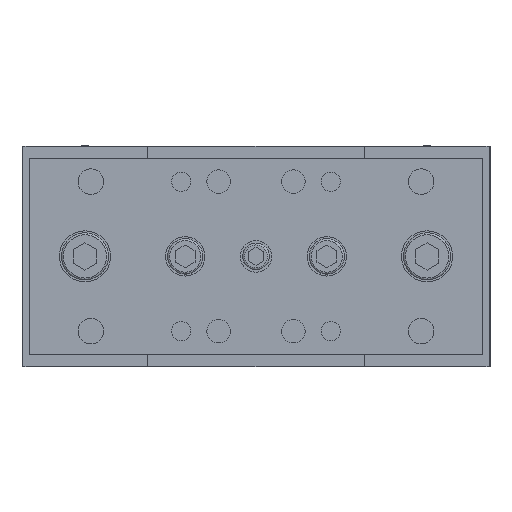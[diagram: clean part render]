
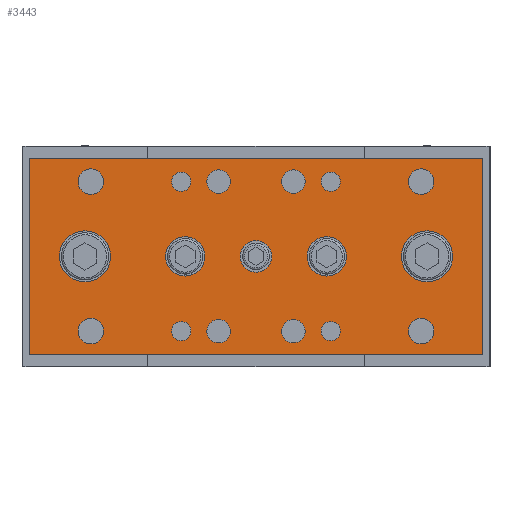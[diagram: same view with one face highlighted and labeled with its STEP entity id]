
A CAD part, front view. The second image highlights one B-rep face of the part: STEP entity #3443.
In plain terms, the highlighted planar face has unit normal (0, -1, 0).
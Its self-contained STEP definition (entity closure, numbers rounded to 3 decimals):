
#2757=CARTESIAN_POINT('',(4.0,-76.0,0.));
#2758=VERTEX_POINT('',#2757);
#2759=CARTESIAN_POINT('',(0.0,-76.0,0.0));
#2760=DIRECTION('',(0.0,1.0,0.0));
#2761=DIRECTION('',(-1.0,0.0,0.0));
#2762=AXIS2_PLACEMENT_3D('',#2759,#2760,#2761);
#2763=CIRCLE('',#2762,4.0);
#2764=EDGE_CURVE('',#2758,#2758,#2763,.T.);
#2797=CARTESIAN_POINT('',(-13.,-76.0,0.));
#2798=VERTEX_POINT('',#2797);
#2799=CARTESIAN_POINT('',(-18.0,-76.0,0.0));
#2800=DIRECTION('',(0.0,1.0,0.0));
#2801=DIRECTION('',(-1.0,0.0,0.0));
#2802=AXIS2_PLACEMENT_3D('',#2799,#2800,#2801);
#2803=CIRCLE('',#2802,5.0);
#2804=EDGE_CURVE('',#2798,#2798,#2803,.T.);
#2837=CARTESIAN_POINT('',(23.0,-76.0,0.));
#2838=VERTEX_POINT('',#2837);
#2839=CARTESIAN_POINT('',(18.0,-76.0,0.0));
#2840=DIRECTION('',(0.0,1.0,0.0));
#2841=DIRECTION('',(-1.0,0.0,0.0));
#2842=AXIS2_PLACEMENT_3D('',#2839,#2840,#2841);
#2843=CIRCLE('',#2842,5.0);
#2844=EDGE_CURVE('',#2838,#2838,#2843,.T.);
#2877=CARTESIAN_POINT('',(-37.,-76.0,0.));
#2878=VERTEX_POINT('',#2877);
#2879=CARTESIAN_POINT('',(-43.5,-76.0,0.0));
#2880=DIRECTION('',(0.0,1.0,0.0));
#2881=DIRECTION('',(-1.0,0.0,0.0));
#2882=AXIS2_PLACEMENT_3D('',#2879,#2880,#2881);
#2883=CIRCLE('',#2882,6.5);
#2884=EDGE_CURVE('',#2878,#2878,#2883,.T.);
#2917=CARTESIAN_POINT('',(50.,-76.0,0.));
#2918=VERTEX_POINT('',#2917);
#2919=CARTESIAN_POINT('',(43.5,-76.0,0.0));
#2920=DIRECTION('',(0.0,1.0,0.0));
#2921=DIRECTION('',(-1.0,0.0,0.0));
#2922=AXIS2_PLACEMENT_3D('',#2919,#2920,#2921);
#2923=CIRCLE('',#2922,6.5);
#2924=EDGE_CURVE('',#2918,#2918,#2923,.T.);
#3257=CARTESIAN_POINT('',(0.0,-76.0,-25.0));
#3258=DIRECTION('',(0.0,-1.0,0.0));
#3259=DIRECTION('',(0.0,0.0,-1.0));
#3260=AXIS2_PLACEMENT_3D('',#3257,#3258,#3259);
#3261=PLANE('',#3260);
#3262=CARTESIAN_POINT('',(57.5,-76.0,-25.0));
#3263=VERTEX_POINT('',#3262);
#3264=CARTESIAN_POINT('',(57.5,-76.0,25.0));
#3265=VERTEX_POINT('',#3264);
#3266=CARTESIAN_POINT('',(57.5,-76.0,-25.0));
#3267=DIRECTION('',(0.0,0.0,1.0));
#3268=VECTOR('',#3267,50.0);
#3269=LINE('',#3266,#3268);
#3270=EDGE_CURVE('',#3263,#3265,#3269,.T.);
#3271=ORIENTED_EDGE('',*,*,#3270,.T.);
#3272=CARTESIAN_POINT('',(-57.5,-76.0,25.0));
#3273=VERTEX_POINT('',#3272);
#3274=CARTESIAN_POINT('',(-57.5,-76.0,25.0));
#3275=DIRECTION('',(1.0,0.0,0.0));
#3276=VECTOR('',#3275,115.0);
#3277=LINE('',#3274,#3276);
#3278=EDGE_CURVE('',#3273,#3265,#3277,.T.);
#3279=ORIENTED_EDGE('',*,*,#3278,.F.);
#3280=CARTESIAN_POINT('',(-57.5,-76.0,-25.0));
#3281=VERTEX_POINT('',#3280);
#3282=CARTESIAN_POINT('',(-57.5,-76.0,25.0));
#3283=DIRECTION('',(0.0,0.0,-1.0));
#3284=VECTOR('',#3283,50.0);
#3285=LINE('',#3282,#3284);
#3286=EDGE_CURVE('',#3273,#3281,#3285,.T.);
#3287=ORIENTED_EDGE('',*,*,#3286,.T.);
#3288=CARTESIAN_POINT('',(57.5,-76.0,-25.0));
#3289=DIRECTION('',(-1.0,0.0,0.0));
#3290=VECTOR('',#3289,115.0);
#3291=LINE('',#3288,#3290);
#3292=EDGE_CURVE('',#3263,#3281,#3291,.T.);
#3293=ORIENTED_EDGE('',*,*,#3292,.F.);
#3294=EDGE_LOOP('',(#3271,#3279,#3287,#3293));
#3295=FACE_OUTER_BOUND('',#3294,.T.);
#3296=CARTESIAN_POINT('',(-6.5,-76.0,19.0));
#3297=VERTEX_POINT('',#3296);
#3298=CARTESIAN_POINT('',(-9.5,-76.0,19.0));
#3299=DIRECTION('',(0.0,1.0,0.0));
#3300=DIRECTION('',(-1.0,0.0,0.0));
#3301=AXIS2_PLACEMENT_3D('',#3298,#3299,#3300);
#3302=CIRCLE('',#3301,3.);
#3303=EDGE_CURVE('',#3297,#3297,#3302,.T.);
#3304=ORIENTED_EDGE('',*,*,#3303,.T.);
#3305=EDGE_LOOP('',(#3304));
#3306=FACE_BOUND('',#3305,.T.);
#3307=CARTESIAN_POINT('',(12.5,-76.0,19.0));
#3308=VERTEX_POINT('',#3307);
#3309=CARTESIAN_POINT('',(9.5,-76.0,19.0));
#3310=DIRECTION('',(0.0,1.0,0.0));
#3311=DIRECTION('',(-1.0,0.0,0.0));
#3312=AXIS2_PLACEMENT_3D('',#3309,#3310,#3311);
#3313=CIRCLE('',#3312,3.);
#3314=EDGE_CURVE('',#3308,#3308,#3313,.T.);
#3315=ORIENTED_EDGE('',*,*,#3314,.T.);
#3316=EDGE_LOOP('',(#3315));
#3317=FACE_BOUND('',#3316,.T.);
#3318=CARTESIAN_POINT('',(-6.5,-76.0,-19.));
#3319=VERTEX_POINT('',#3318);
#3320=CARTESIAN_POINT('',(-9.5,-76.0,-19.));
#3321=DIRECTION('',(0.0,1.0,0.0));
#3322=DIRECTION('',(-1.0,0.0,0.0));
#3323=AXIS2_PLACEMENT_3D('',#3320,#3321,#3322);
#3324=CIRCLE('',#3323,3.);
#3325=EDGE_CURVE('',#3319,#3319,#3324,.T.);
#3326=ORIENTED_EDGE('',*,*,#3325,.T.);
#3327=EDGE_LOOP('',(#3326));
#3328=FACE_BOUND('',#3327,.T.);
#3329=CARTESIAN_POINT('',(12.5,-76.0,-19.));
#3330=VERTEX_POINT('',#3329);
#3331=CARTESIAN_POINT('',(9.5,-76.0,-19.));
#3332=DIRECTION('',(0.0,1.0,0.0));
#3333=DIRECTION('',(-1.0,0.0,0.0));
#3334=AXIS2_PLACEMENT_3D('',#3331,#3332,#3333);
#3335=CIRCLE('',#3334,3.);
#3336=EDGE_CURVE('',#3330,#3330,#3335,.T.);
#3337=ORIENTED_EDGE('',*,*,#3336,.T.);
#3338=EDGE_LOOP('',(#3337));
#3339=FACE_BOUND('',#3338,.T.);
#3340=CARTESIAN_POINT('',(-16.542,-76.0,19.0));
#3341=VERTEX_POINT('',#3340);
#3342=CARTESIAN_POINT('',(-19.,-76.,19.0));
#3343=DIRECTION('',(0.0,1.0,0.0));
#3344=DIRECTION('',(1.0,0.0,0.0));
#3345=AXIS2_PLACEMENT_3D('',#3342,#3343,#3344);
#3346=CIRCLE('',#3345,2.459);
#3347=EDGE_CURVE('',#3341,#3341,#3346,.T.);
#3348=ORIENTED_EDGE('',*,*,#3347,.T.);
#3349=EDGE_LOOP('',(#3348));
#3350=FACE_BOUND('',#3349,.T.);
#3351=CARTESIAN_POINT('',(21.459,-76.0,19.0));
#3352=VERTEX_POINT('',#3351);
#3353=CARTESIAN_POINT('',(19.,-76.,19.0));
#3354=DIRECTION('',(0.0,1.0,0.0));
#3355=DIRECTION('',(1.0,0.0,0.0));
#3356=AXIS2_PLACEMENT_3D('',#3353,#3354,#3355);
#3357=CIRCLE('',#3356,2.459);
#3358=EDGE_CURVE('',#3352,#3352,#3357,.T.);
#3359=ORIENTED_EDGE('',*,*,#3358,.T.);
#3360=EDGE_LOOP('',(#3359));
#3361=FACE_BOUND('',#3360,.T.);
#3362=CARTESIAN_POINT('',(-16.542,-76.0,-19.));
#3363=VERTEX_POINT('',#3362);
#3364=CARTESIAN_POINT('',(-19.,-76.,-19.));
#3365=DIRECTION('',(0.0,1.0,0.0));
#3366=DIRECTION('',(1.0,0.0,0.0));
#3367=AXIS2_PLACEMENT_3D('',#3364,#3365,#3366);
#3368=CIRCLE('',#3367,2.459);
#3369=EDGE_CURVE('',#3363,#3363,#3368,.T.);
#3370=ORIENTED_EDGE('',*,*,#3369,.T.);
#3371=EDGE_LOOP('',(#3370));
#3372=FACE_BOUND('',#3371,.T.);
#3373=CARTESIAN_POINT('',(21.459,-76.0,-19.));
#3374=VERTEX_POINT('',#3373);
#3375=CARTESIAN_POINT('',(19.,-76.,-19.));
#3376=DIRECTION('',(0.0,1.0,0.0));
#3377=DIRECTION('',(1.0,0.0,0.0));
#3378=AXIS2_PLACEMENT_3D('',#3375,#3376,#3377);
#3379=CIRCLE('',#3378,2.459);
#3380=EDGE_CURVE('',#3374,#3374,#3379,.T.);
#3381=ORIENTED_EDGE('',*,*,#3380,.T.);
#3382=EDGE_LOOP('',(#3381));
#3383=FACE_BOUND('',#3382,.T.);
#3384=CARTESIAN_POINT('',(-45.25,-76.,19.0));
#3385=VERTEX_POINT('',#3384);
#3386=CARTESIAN_POINT('',(-42.0,-76.,19.0));
#3387=DIRECTION('',(0.0,1.0,0.0));
#3388=DIRECTION('',(1.0,0.0,0.0));
#3389=AXIS2_PLACEMENT_3D('',#3386,#3387,#3388);
#3390=CIRCLE('',#3389,3.25);
#3391=EDGE_CURVE('',#3385,#3385,#3390,.T.);
#3392=ORIENTED_EDGE('',*,*,#3391,.T.);
#3393=EDGE_LOOP('',(#3392));
#3394=FACE_BOUND('',#3393,.T.);
#3395=CARTESIAN_POINT('',(38.75,-76.,19.0));
#3396=VERTEX_POINT('',#3395);
#3397=CARTESIAN_POINT('',(42.,-76.,19.0));
#3398=DIRECTION('',(0.0,1.0,0.0));
#3399=DIRECTION('',(1.0,0.0,0.0));
#3400=AXIS2_PLACEMENT_3D('',#3397,#3398,#3399);
#3401=CIRCLE('',#3400,3.25);
#3402=EDGE_CURVE('',#3396,#3396,#3401,.T.);
#3403=ORIENTED_EDGE('',*,*,#3402,.T.);
#3404=EDGE_LOOP('',(#3403));
#3405=FACE_BOUND('',#3404,.T.);
#3406=CARTESIAN_POINT('',(-45.25,-76.,-19.));
#3407=VERTEX_POINT('',#3406);
#3408=CARTESIAN_POINT('',(-42.0,-76.,-19.));
#3409=DIRECTION('',(0.0,1.0,0.0));
#3410=DIRECTION('',(1.0,0.0,0.0));
#3411=AXIS2_PLACEMENT_3D('',#3408,#3409,#3410);
#3412=CIRCLE('',#3411,3.25);
#3413=EDGE_CURVE('',#3407,#3407,#3412,.T.);
#3414=ORIENTED_EDGE('',*,*,#3413,.T.);
#3415=EDGE_LOOP('',(#3414));
#3416=FACE_BOUND('',#3415,.T.);
#3417=CARTESIAN_POINT('',(38.75,-76.,-19.));
#3418=VERTEX_POINT('',#3417);
#3419=CARTESIAN_POINT('',(42.,-76.,-19.));
#3420=DIRECTION('',(0.0,1.0,0.0));
#3421=DIRECTION('',(1.0,0.0,0.0));
#3422=AXIS2_PLACEMENT_3D('',#3419,#3420,#3421);
#3423=CIRCLE('',#3422,3.25);
#3424=EDGE_CURVE('',#3418,#3418,#3423,.T.);
#3425=ORIENTED_EDGE('',*,*,#3424,.T.);
#3426=EDGE_LOOP('',(#3425));
#3427=FACE_BOUND('',#3426,.T.);
#3428=ORIENTED_EDGE('',*,*,#2924,.T.);
#3429=EDGE_LOOP('',(#3428));
#3430=FACE_BOUND('',#3429,.T.);
#3431=ORIENTED_EDGE('',*,*,#2884,.T.);
#3432=EDGE_LOOP('',(#3431));
#3433=FACE_BOUND('',#3432,.T.);
#3434=ORIENTED_EDGE('',*,*,#2844,.T.);
#3435=EDGE_LOOP('',(#3434));
#3436=FACE_BOUND('',#3435,.T.);
#3437=ORIENTED_EDGE('',*,*,#2804,.T.);
#3438=EDGE_LOOP('',(#3437));
#3439=FACE_BOUND('',#3438,.T.);
#3440=ORIENTED_EDGE('',*,*,#2764,.T.);
#3441=EDGE_LOOP('',(#3440));
#3442=FACE_BOUND('',#3441,.T.);
#3443=ADVANCED_FACE('',(#3295,#3306,#3317,#3328,#3339,#3350,#3361,#3372,#3383,#3394,#3405,#3416,#3427,#3430,#3433,#3436,#3439,#3442),#3261,.T.);
